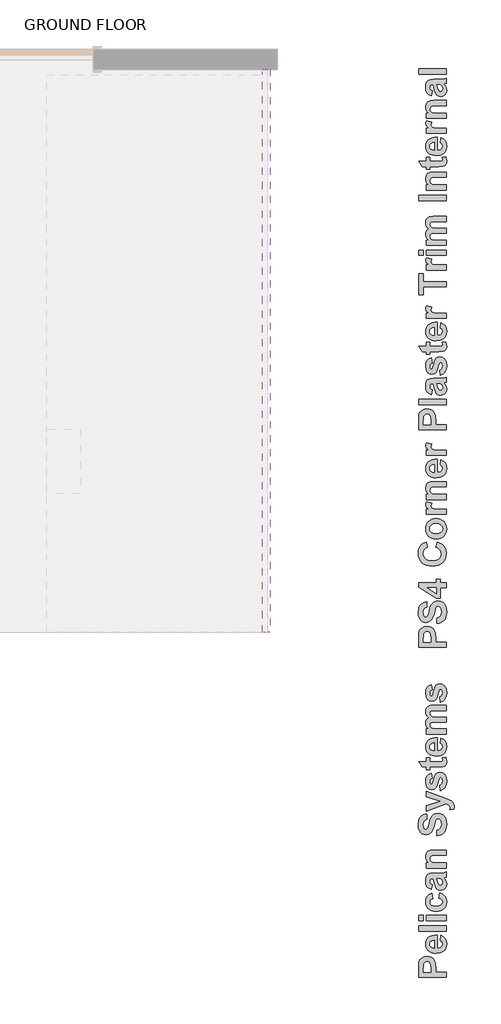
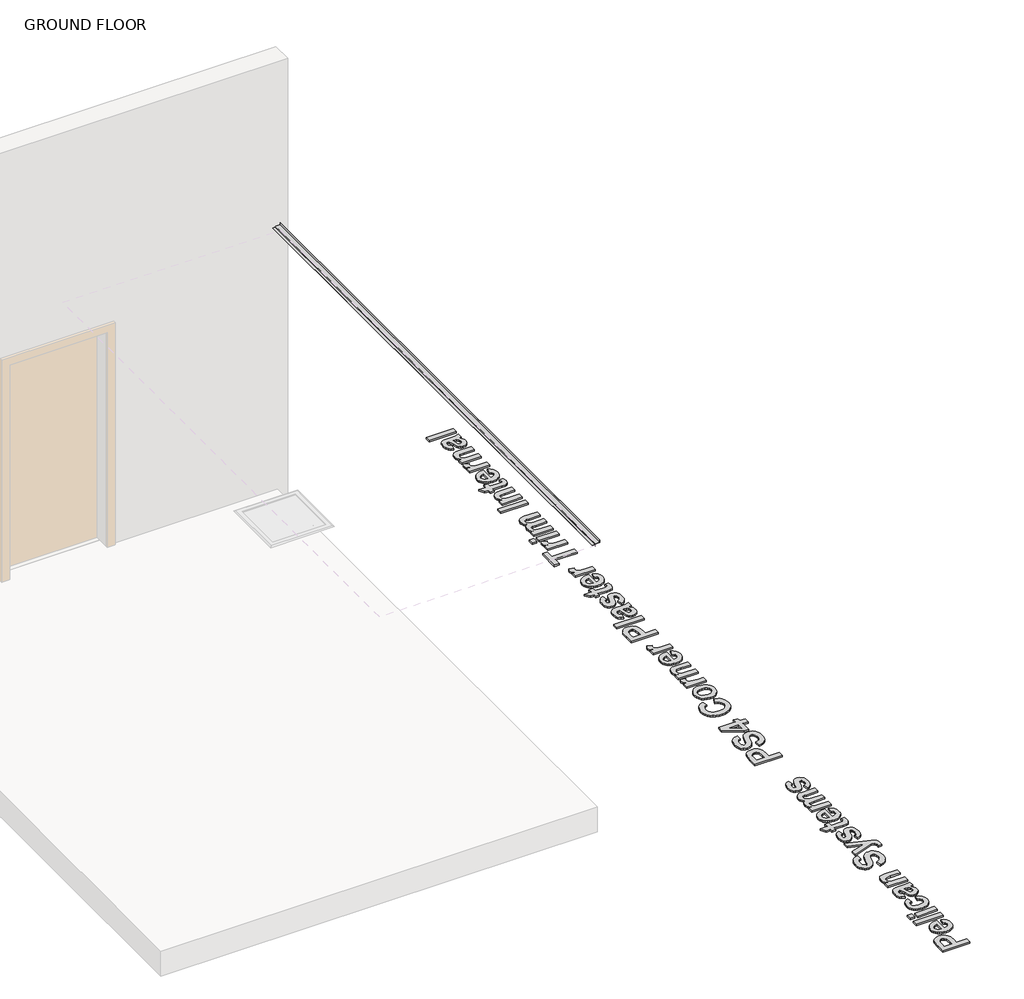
# One storey, part 2 of 2: 2 proxies.
"""IFC4 building model written with IfcOpenShell, lengths in millimetres."""

from ifc_helpers import new_model, si_unit, origin, origin_with_axes, place, context, project, spatial, polyline, outline, extrude, faceted_brep, element, save

model = new_model("IFC4")

# Units and contexts
model_context = context("Model", 3, world=origin())
ifc_project = project(units=[si_unit("LENGTHUNIT", "METRE", prefix="MILLI")], contexts=[model_context])

# Site, building, storey
site = spatial("IfcSite", under=ifc_project)
building = spatial("IfcBuilding", under=site)
storey = spatial("IfcBuildingStorey", under=building, Name="GROUND FLOOR", Elevation=0.0)

# Proxies
placement = place(None, origin())
element("IfcBuildingElementProxy", 1, Name="600mm Arial", ObjectType="600mm Arial", at=placement, inside=storey, context=model_context, shape_type="SweptSolid", body=[
    extrude(outline(polyline([(133623.0960227, 46220.9292098), (133368.0311727, 46220.9292098), (133368.0311727, 46303.1041205), (133371.8267806, 46364.0236271), (133380.8808869, 46384.0691812), (133396.6563822, 46400.556353), (133418.5681102, 46411.5873384), (133446.0309148, 46415.2643336), (133467.5156369, 46413.1055816), (133485.2838263, 46406.6293256), (133499.4857258, 46396.8240053), (133510.2715783, 46384.67806), (133522.3226333, 46357.6343538), (133525.9284608, 46303.5469414), (133525.9284608, 46269.5129907), (133623.0960227, 46269.5129907), (133623.0960227, 46220.9292098)]), holes=[polyline([(133412.5663052, 46269.5129907), (133481.3933282, 46269.5129907), (133481.3933282, 46299.6880734), (133477.5977204, 46343.2426739), (133465.6731856, 46360.4494297), (133456.8879348, 46365.1227719), (133446.7900363, 46366.6805526), (133434.7231663, 46364.4901706), (133424.965291, 46357.9190244), (133417.9750465, 46348.0109063), (133414.2110687, 46335.8096085), (133412.5663052, 46296.1455061), (133412.5663052, 46269.5129907)])]), origin_with_axes(), (0.0, 0.0, 1.0), 15.0),
    extrude(outline(polyline([(133566.4149449, 46561.0156764), (133574.5122417, 46609.5994574), (133597.1830913, 46597.7698128), (133613.7018932, 46580.6263172), (133623.7839766, 46558.3429359), (133627.1446711, 46531.0936342), (133625.1638382, 46509.0909698), (133619.2213396, 46490.1485142), (133609.3171753, 46474.2662674), (133595.4513452, 46461.4442295), (133566.7470606, 46448.0647117), (133531.3688321, 46443.6048725), (133509.5282717, 46445.083578), (133490.1864865, 46449.5196947), (133473.3434765, 46456.9132226), (133458.9992417, 46467.2641616), (133447.5412504, 46479.8766503), (133439.3569709, 46494.0548273), (133434.4464032, 46509.7986925), (133432.8095473, 46527.108246), (133434.4898945, 46546.3432797), (133439.5309363, 46563.4353764), (133447.9326725, 46578.3845363), (133459.6951032, 46591.1907591), (133474.9289336, 46601.3954091), (133493.7448689, 46608.5398502), (133516.1429092, 46612.6240824), (133542.1230544, 46613.6481058), (133542.1230544, 46492.1886534), (133562.587707, 46495.3042149), (133577.9282888, 46503.6387372), (133587.5121987, 46515.9270177), (133590.7068354, 46530.9038538), (133589.2676674, 46541.10455), (133584.9501634, 46549.5655926), (133577.4380228, 46556.2237215), (133566.4149449, 46561.0156764)]), holes=[polyline([(133513.7825155, 46565.0643248), (133494.5751581, 46562.1069137), (133480.6025766, 46554.2468424), (133472.0861814, 46542.8283886), (133469.247383, 46529.1958303), (133472.2364242, 46514.8041504), (133481.2035479, 46503.1326561), (133495.3580023, 46495.4781802), (133513.7825155, 46493.0110351), (133513.7825155, 46565.0643248)])]), origin_with_axes(), (0.0, 0.0, 1.0), 15.0),
    extrude(outline(polyline([(133623.0960227, 46650.0859415), (133368.0311727, 46650.0859415), (133368.0311727, 46698.6697224), (133623.0960227, 46698.6697224), (133623.0960227, 46650.0859415)])), origin_with_axes(), (0.0, 0.0, 1.0), 15.0),
    extrude(outline(polyline([(133412.5663052, 46747.2535034), (133368.0311727, 46747.2535034), (133368.0311727, 46795.8372843), (133412.5663052, 46795.8372843), (133412.5663052, 46747.2535034)])), origin_with_axes(), (0.0, 0.0, 1.0), 15.0),
    extrude(outline(polyline([(133623.0960227, 46747.2535034), (133436.8581957, 46747.2535034), (133436.8581957, 46795.8372843), (133623.0960227, 46795.8372843), (133623.0960227, 46747.2535034)])), origin_with_axes(), (0.0, 0.0, 1.0), 15.0),
    extrude(outline(polyline([(133489.4906251, 46998.269705), (133497.5879219, 46949.685924), (133485.2284737, 46945.9614838), (133476.3641478, 46939.3428925), (133471.0265742, 46930.0673758), (133469.247383, 46918.372159), (133472.5843549, 46902.9683169), (133482.5952707, 46891.0437822), (133500.4188128, 46883.4051213), (133527.1936634, 46880.858901), (133556.8784801, 46883.507919), (133576.3467855, 46891.454973), (133587.1168229, 46903.8618663), (133590.7068354, 46919.8904021), (133588.6587886, 46932.0284398), (133582.5146484, 46941.7467775), (133571.3571427, 46948.9979701), (133554.2689997, 46953.7345724), (133562.3662965, 47002.3183534), (133590.5091475, 46991.6827438), (133610.7919271, 46974.3257452), (133623.0564851, 46950.0892074), (133627.1446711, 46918.8149799), (133625.5354915, 46900.0484665), (133620.7079527, 46883.2865086), (133612.6620548, 46868.529106), (133601.3977976, 46855.7762589), (133587.2907883, 46845.4945107), (133570.7166338, 46838.1504048), (133551.6753343, 46833.7439412), (133530.1668896, 46832.2751201), (133508.4152888, 46833.7340568), (133489.213862, 46838.1108672), (133472.5626093, 46845.4055511), (133458.4615306, 46855.6181086), (133447.2387879, 46868.3215337), (133439.2225431, 46883.0888206), (133434.4127963, 46899.9199694), (133432.8095473, 46918.8149799), (133436.3125771, 46948.0569756), (133446.8216664, 46970.6250275), (133464.4949656, 46987.1517369), (133489.4906251, 46998.269705)])), origin_with_axes(), (0.0, 0.0, 1.0), 15.0),
    extrude(outline(polyline([(133493.5392735, 47079.2426732), (133485.4419767, 47034.7075407), (133462.0989882, 47044.3626182), (133445.7146141, 47059.1575815), (133436.035814, 47080.7213788), (133432.8095473, 47110.6829585), (133434.7627039, 47137.7741098), (133440.6221735, 47156.9261146), (133449.4785919, 47169.8628115), (133460.4225947, 47178.3080391), (133477.4316625, 47182.9576587), (133504.4832762, 47184.5075319), (133561.9234756, 47184.5075319), (133598.1082708, 47187.0695673), (133623.0960227, 47196.6534772), (133623.0960227, 47148.0696962), (133607.6605506, 47143.5149668), (133601.5243179, 47141.8069432), (133620.7237678, 47115.8070292), (133625.5394453, 47101.4944245), (133627.1446711, 47086.2645478), (133623.2462655, 47061.4902988), (133611.5510487, 47042.583427), (133593.9093795, 47030.6035397), (133572.1716169, 47026.6102439), (133557.2738559, 47028.3894351), (133544.0841185, 47033.7270086), (133533.1875609, 47042.2750339), (133525.1693392, 47053.6855801), (133513.7192554, 47090.692757), (133501.6365703, 47135.923751), (133496.5124997, 47135.923751), (133483.8921034, 47134.4134154), (133475.510136, 47129.8824084), (133470.8130713, 47121.1762329), (133469.247383, 47107.1403912), (133470.5916608, 47097.0662153), (133474.6244942, 47089.4908145), (133493.5392735, 47079.2426732)]), holes=[polyline([(133538.074406, 47135.923751), (133544.81161, 47108.5321141), (133552.497716, 47083.9871831), (133559.4088854, 47077.3923144), (133567.9964482, 47075.1940248), (133576.6077336, 47076.957401), (133583.9696314, 47082.2475295), (133589.0225344, 47090.2578436), (133590.7068354, 47100.1817767), (133588.7457713, 47112.0904965), (133582.8625791, 47123.398245), (133568.3127489, 47134.1524673), (133546.8675643, 47135.923751), (133538.074406, 47135.923751)])]), origin_with_axes(), (0.0, 0.0, 1.0), 15.0),
    extrude(outline(polyline([(133623.0960227, 47399.0858978), (133623.0960227, 47350.5021169), (133527.3834438, 47350.5021169), (133488.035642, 47347.4656306), (133474.1816733, 47337.5337899), (133469.247383, 47321.0228956), (133471.0107592, 47309.2644187), (133476.3008877, 47298.7869594), (133484.5088897, 47290.4998822), (133495.0258866, 47285.3125514), (133538.1376662, 47281.6750938), (133623.0960227, 47281.6750938), (133623.0960227, 47233.0913129), (133436.8581957, 47233.0913129), (133436.8581957, 47281.6750938), (133463.6804914, 47281.6750938), (133450.1744534, 47293.9673281), (133440.5272833, 47307.754083), (133434.7389813, 47323.0353585), (133432.8095473, 47339.8111546), (133438.6927395, 47368.0251733), (133453.6853907, 47387.3827735), (133474.3398236, 47396.5238625), (133507.4565024, 47399.0858978), (133623.0960227, 47399.0858978)])), origin_with_axes(), (0.0, 0.0, 1.0), 15.0),
    extrude(outline(polyline([(133538.074406, 47532.6912954), (133534.0257576, 47581.2750764), (133555.7556128, 47588.3602111), (133570.8431541, 47600.2531158), (133579.6679424, 47617.0328657), (133582.6095386, 47638.7785359), (133580.0079657, 47661.3465878), (133572.2032469, 47677.5569964), (133560.919221, 47687.3306867), (133547.8797264, 47690.5885835), (133532.6656648, 47685.1798423), (133521.7532921, 47666.2334329), (133510.9358096, 47624.1021854), (133499.7545814, 47588.1388006), (133486.074578, 47564.7641821), (133462.7790346, 47546.7824897), (133434.8971316, 47540.7885922), (133416.1088726, 47543.540408), (133398.5858162, 47551.7958551), (133383.7038703, 47565.2386331), (133372.8389427, 47583.5524411), (133366.1966289, 47606.4367937), (133363.9825243, 47633.5912051), (133369.5019708, 47675.5563948), (133376.4012788, 47692.0969423), (133386.0603102, 47705.6761249), (133398.0204288, 47716.3374339), (133411.8229987, 47724.1243607), (133427.4680199, 47729.0369053), (133444.9554925, 47731.0750676), (133444.9554925, 47682.4912867), (133428.2627253, 47677.122083), (133417.0261445, 47667.8465663), (133410.6447787, 47653.8107246), (133408.5176568, 47634.1605463), (133410.7792065, 47613.4744833), (133417.5638556, 47597.8492308), (133424.3643197, 47591.4915876), (133433.125848, 47589.3723732), (133441.3971101, 47591.3018072), (133448.3715396, 47597.0901092), (133456.5400041, 47613.8935817), (133464.9773241, 47644.6933581), (133473.7546674, 47677.564904), (133482.9432015, 47700.5836843), (133494.0690771, 47716.7150178), (133508.6584449, 47728.9242232), (133526.8931778, 47736.6103291), (133548.9551486, 47739.1723645), (133570.0207724, 47736.1437857), (133589.6946733, 47727.0580493), (133606.2371977, 47712.4291439), (133617.9086919, 47692.771058), (133624.8356763, 47667.8702888), (133627.1446711, 47637.5133332), (133625.723295, 47614.8108536), (133621.4591668, 47594.9076347), (133614.3522864, 47577.8036767), (133604.4026538, 47563.4989794), (133591.7288819, 47551.8946991), (133576.4495833, 47542.8919916), (133558.564758, 47536.4908571), (133538.074406, 47532.6912954)])), origin_with_axes(), (0.0, 0.0, 1.0), 15.0),
    extrude(outline(polyline([(133436.8581957, 47759.4156065), (133436.8581957, 47807.9993875), (133568.6923096, 47850.5101958), (133436.8581957, 47893.0210041), (133436.8581957, 47941.6047851), (133615.3150265, 47878.5976942), (133648.4633354, 47866.8945699), (133672.0593644, 47855.3495959), (133685.2807319, 47842.7291996), (133693.1566183, 47825.1745132), (133695.9716941, 47801.6733743), (133693.1882483, 47775.6102002), (133657.1932335, 47771.5615518), (133659.5338584, 47790.8558919), (133656.9639156, 47804.622878), (133649.254087, 47814.2937706), (133623.0960227, 47825.9652648), (133436.8581957, 47759.4156065)])), origin_with_axes(), (0.0, 0.0, 1.0), 15.0),
    extrude(outline(polyline([(133570.4635933, 47949.7020819), (133562.3662965, 47998.2858629), (133574.6071319, 48002.91176), (133583.4951804, 48010.7164787), (133588.9039216, 48021.9688746), (133590.7068354, 48036.9378032), (133588.9829968, 48053.1798419), (133583.8114811, 48064.8355211), (133578.1813294, 48069.580031), (133570.9064142, 48071.1615343), (133561.7969553, 48067.8087473), (133555.407682, 48051.9304543), (133542.9770662, 48005.0072518), (133531.6218726, 47979.118043), (133513.6401803, 47963.1290448), (133489.8069257, 47957.7993787), (133467.6184346, 47962.3699232), (133449.2571815, 47976.0815567), (133436.9214558, 47999.4087302), (133432.8095473, 48032.8258946), (133436.1307042, 48064.6931859), (133446.0941749, 48087.1663475), (133462.5734391, 48102.1748137), (133485.4419767, 48111.6480184), (133493.5392735, 48063.0642375), (133483.1487969, 48059.49004), (133475.510136, 48053.701738), (133470.8130713, 48045.3514007), (133469.247383, 48034.0910973), (133470.5758458, 48020.2529435), (133474.5612341, 48011.0011493), (133484.4298146, 48006.3831597), (133493.2229728, 48011.0011493), (133506.8239011, 48053.9864086), (133516.6450365, 48085.213191), (133528.5221262, 48105.3220053), (133544.1948237, 48116.1394877), (133565.023222, 48119.7453152), (133588.7220488, 48114.5184469), (133608.830863, 48098.8378418), (133616.8431541, 48087.1287868), (133622.5662191, 48072.9090954), (133627.1446711, 48036.9378032), (133623.3332482, 48003.6234365), (133611.8989794, 47978.0742509), (133593.9172871, 47960.1479111), (133570.4635933, 47949.7020819)])), origin_with_axes(), (0.0, 0.0, 1.0), 15.0),
    extrude(outline(polyline([(133436.8581957, 48253.3507129), (133473.2960314, 48253.3507129), (133473.2960314, 48216.9128771), (133553.1935774, 48216.9128771), (133581.4392261, 48218.0199294), (133588.0815399, 48223.0491099), (133590.7068354, 48232.6013897), (133586.0255857, 48255.3750371), (133620.5656174, 48257.3993613), (133625.4999077, 48238.6585473), (133627.1446711, 48217.6087386), (133622.5899416, 48193.0638076), (133610.8235572, 48177.0273643), (133591.2761766, 48169.9105995), (133555.9137631, 48168.3290962), (133473.2960314, 48168.3290962), (133473.2960314, 48144.0372057), (133436.8581957, 48144.0372057), (133436.8581957, 48168.3290962), (133400.42036, 48168.3290962), (133372.0798211, 48216.9128771), (133436.8581957, 48216.9128771), (133436.8581957, 48253.3507129)])), origin_with_axes(), (0.0, 0.0, 1.0), 15.0),
    extrude(outline(polyline([(133566.4149449, 48386.9561105), (133574.5122417, 48435.5398914), (133597.1830913, 48423.7102468), (133613.7018932, 48406.5667512), (133623.7839766, 48384.2833699), (133627.1446711, 48357.0340683), (133625.1638382, 48335.0314038), (133619.2213396, 48316.0889482), (133609.3171753, 48300.2067015), (133595.4513452, 48287.3846636), (133566.7470606, 48274.0051458), (133531.3688321, 48269.5453065), (133509.5282717, 48271.0240121), (133490.1864865, 48275.4601288), (133473.3434765, 48282.8536567), (133458.9992417, 48293.2045957), (133447.5412504, 48305.8170844), (133439.3569709, 48319.9952613), (133434.4464032, 48335.7391265), (133432.8095473, 48353.04868), (133434.4898945, 48372.2837137), (133439.5309363, 48389.3758105), (133447.9326725, 48404.3249703), (133459.6951032, 48417.1311932), (133474.9289336, 48427.3358431), (133493.7448689, 48434.4802842), (133516.1429092, 48438.5645165), (133542.1230544, 48439.5885398), (133542.1230544, 48318.1290875), (133562.587707, 48321.2446489), (133577.9282888, 48329.5791712), (133587.5121987, 48341.8674518), (133590.7068354, 48356.8442879), (133589.2676674, 48367.0449841), (133584.9501634, 48375.5060267), (133577.4380228, 48382.1641555), (133566.4149449, 48386.9561105)]), holes=[polyline([(133513.7825155, 48391.0047589), (133494.5751581, 48388.0473477), (133480.6025766, 48380.1872764), (133472.0861814, 48368.7688227), (133469.247383, 48355.1362644), (133472.2364242, 48340.7445844), (133481.2035479, 48329.0730902), (133495.3580023, 48321.4186143), (133513.7825155, 48318.9514692), (133513.7825155, 48391.0047589)])]), origin_with_axes(), (0.0, 0.0, 1.0), 15.0),
    extrude(outline(polyline([(133436.8581957, 48471.9777271), (133436.8581957, 48520.5615081), (133461.7826875, 48520.5615081), (133449.1069387, 48532.5216267), (133440.0528323, 48545.565075), (133434.6203686, 48559.6918531), (133432.8095473, 48574.901961), (133434.5887385, 48590.550936), (133439.9263121, 48603.9699914), (133448.8697132, 48615.1749422), (133461.4663868, 48624.1816034), (133448.8697132, 48636.6201267), (133439.9263121, 48650.0233671), (133434.5887385, 48664.3755094), (133432.8095473, 48679.6607387), (133434.8892241, 48698.116882), (133441.1282546, 48713.504909), (133451.4001184, 48725.6192242), (133465.5782954, 48734.2542321), (133481.1561028, 48737.9549498), (133504.1037154, 48739.1885224), (133623.0960227, 48739.1885224), (133623.0960227, 48690.6047414), (133515.8700999, 48690.6047414), (133492.9224872, 48689.3711688), (133479.8750851, 48685.6704512), (133471.9043085, 48677.2884837), (133469.247383, 48665.3006888), (133470.8367938, 48655.5981662), (133475.6050262, 48646.4807997), (133483.441375, 48638.889584), (133494.2351349, 48633.7655133), (133533.0135955, 48629.8750152), (133623.0960227, 48629.8750152), (133623.0960227, 48581.2912343), (133520.2983091, 48581.2912343), (133484.9675257, 48578.760829), (133473.1378811, 48570.9482028), (133469.247383, 48556.5565229), (133470.7893487, 48546.1660463), (133475.4152458, 48536.882622), (133482.9590165, 48529.3862964), (133493.2546029, 48524.357116), (133531.9381733, 48520.5615081), (133623.0960227, 48520.5615081), (133623.0960227, 48471.9777271), (133436.8581957, 48471.9777271)])), origin_with_axes(), (0.0, 0.0, 1.0), 15.0),
    extrude(outline(polyline([(133570.4635933, 48767.5290612), (133562.3662965, 48816.1128422), (133574.6071319, 48820.7387393), (133583.4951804, 48828.543458), (133588.9039216, 48839.7958539), (133590.7068354, 48854.7647825), (133588.9829968, 48871.0068213), (133583.8114811, 48882.6625005), (133578.1813294, 48887.4070103), (133570.9064142, 48888.9885136), (133561.7969553, 48885.6357267), (133555.407682, 48869.7574337), (133542.9770662, 48822.8342312), (133531.6218726, 48796.9450224), (133513.6401803, 48780.9560241), (133489.8069257, 48775.6263581), (133467.6184346, 48780.1969026), (133449.2571815, 48793.9085361), (133436.9214558, 48817.2357095), (133432.8095473, 48850.652874), (133436.1307042, 48882.5201652), (133446.0941749, 48904.9933269), (133462.5734391, 48920.0017931), (133485.4419767, 48929.4749977), (133493.5392735, 48880.8912168), (133483.1487969, 48877.3170194), (133475.510136, 48871.5287173), (133470.8130713, 48863.17838), (133469.247383, 48851.9180766), (133470.5758458, 48838.0799228), (133474.5612341, 48828.8281286), (133484.4298146, 48824.210139), (133493.2229728, 48828.8281286), (133506.8239011, 48871.8133879), (133516.6450365, 48903.0401703), (133528.5221262, 48923.1489846), (133544.1948237, 48933.9664671), (133565.023222, 48937.5722946), (133588.7220488, 48932.3454262), (133608.830863, 48916.6648211), (133616.8431541, 48904.9557662), (133622.5662191, 48890.7360748), (133627.1446711, 48854.7647825), (133623.3332482, 48821.4504158), (133611.8989794, 48795.9012302), (133593.9172871, 48777.9748905), (133570.4635933, 48767.5290612)])), origin_with_axes(), (0.0, 0.0, 1.0), 15.0),
    extrude(outline(polyline([(133623.0960227, 49273.6101128), (133368.0311727, 49273.6101128), (133368.0311727, 49355.7850236), (133371.8267806, 49416.7045301), (133380.8808869, 49436.7500843), (133396.6563822, 49453.2372561), (133418.5681102, 49464.2682415), (133446.0309148, 49467.9452366), (133467.5156369, 49465.7864846), (133485.2838263, 49459.3102287), (133499.4857258, 49449.5049083), (133510.2715783, 49437.3589631), (133522.3226333, 49410.3152569), (133525.9284608, 49356.2278445), (133525.9284608, 49322.1938938), (133623.0960227, 49322.1938938), (133623.0960227, 49273.6101128)]), holes=[polyline([(133412.5663052, 49322.1938938), (133481.3933282, 49322.1938938), (133481.3933282, 49352.3689765), (133477.5977204, 49395.923577), (133465.6731856, 49413.1303327), (133456.8879348, 49417.8036749), (133446.7900363, 49419.3614557), (133434.7231663, 49417.1710736), (133424.965291, 49410.5999275), (133417.9750465, 49400.6918094), (133414.2110687, 49388.4905115), (133412.5663052, 49348.8264091), (133412.5663052, 49322.1938938)])]), origin_with_axes(), (0.0, 0.0, 1.0), 15.0),
    extrude(outline(polyline([(133538.074406, 49496.2857755), (133534.0257576, 49544.8695565), (133555.7556128, 49551.9546912), (133570.8431541, 49563.8475959), (133579.6679424, 49580.6273458), (133582.6095386, 49602.3730159), (133580.0079657, 49624.9410678), (133572.2032469, 49641.1514765), (133560.919221, 49650.9251668), (133547.8797264, 49654.1830636), (133532.6656648, 49648.7743224), (133521.7532921, 49629.827913), (133510.9358096, 49587.6966654), (133499.7545814, 49551.7332807), (133486.074578, 49528.3586621), (133462.7790346, 49510.3769698), (133434.8971316, 49504.3830723), (133416.1088726, 49507.134888), (133398.5858162, 49515.3903352), (133383.7038703, 49528.8331131), (133372.8389427, 49547.1469212), (133366.1966289, 49570.0312737), (133363.9825243, 49597.1856852), (133369.5019708, 49639.1508749), (133376.4012788, 49655.6914223), (133386.0603102, 49669.2706049), (133398.0204288, 49679.931914), (133411.8229987, 49687.7188408), (133427.4680199, 49692.6313854), (133444.9554925, 49694.6695477), (133444.9554925, 49646.0857668), (133428.2627253, 49640.7165631), (133417.0261445, 49631.4410463), (133410.6447787, 49617.4052047), (133408.5176568, 49597.7550263), (133410.7792065, 49577.0689634), (133417.5638556, 49561.4437109), (133424.3643197, 49555.0860677), (133433.125848, 49552.9668533), (133441.3971101, 49554.8962873), (133448.3715396, 49560.6845893), (133456.5400041, 49577.4880617), (133464.9773241, 49608.2878382), (133473.7546674, 49641.159384), (133482.9432015, 49664.1781644), (133494.0690771, 49680.3094979), (133508.6584449, 49692.5187032), (133526.8931778, 49700.2048092), (133548.9551486, 49702.7668445), (133570.0207724, 49699.7382657), (133589.6946733, 49690.6525294), (133606.2371977, 49676.023624), (133617.9086919, 49656.3655381), (133624.8356763, 49631.4647689), (133627.1446711, 49601.1078133), (133625.723295, 49578.4053336), (133621.4591668, 49558.5021148), (133614.3522864, 49541.3981567), (133604.4026538, 49527.0934595), (133591.7288819, 49515.4891792), (133576.4495833, 49506.4864717), (133558.564758, 49500.0853371), (133538.074406, 49496.2857755)])), origin_with_axes(), (0.0, 0.0, 1.0), 15.0),
    extrude(outline(polyline([(133623.0960227, 49824.2262969), (133570.4635933, 49824.2262969), (133570.4635933, 49727.058735), (133530.1668896, 49727.058735), (133372.0798211, 49830.6788303), (133372.0798211, 49872.8100779), (133529.9771092, 49872.8100779), (133529.9771092, 49905.1992652), (133570.4635933, 49905.1992652), (133570.4635933, 49872.8100779), (133623.0960227, 49872.8100779), (133623.0960227, 49824.2262969)]), holes=[polyline([(133529.9771092, 49824.2262969), (133447.106337, 49824.2262969), (133529.9771092, 49769.9491041), (133529.9771092, 49824.2262969)])]), origin_with_axes(), (0.0, 0.0, 1.0), 15.0),
    extrude(outline(polyline([(133525.9284608, 50200.7505993), (133542.1230544, 50249.3343802), (133577.9045663, 50234.0096134), (133591.8395871, 50223.4886628), (133603.1374512, 50211.0620007), (133618.1063798, 50180.6971376), (133623.0960227, 50143.1206195), (133620.964947, 50118.7931452), (133614.57172, 50096.7351282), (133603.9163416, 50076.9465683), (133588.9988118, 50059.4274656), (133570.3845182, 50045.0911383), (133548.638848, 50034.8509046), (133523.7618013, 50028.7067643), (133495.7533781, 50026.6587175), (133466.2188042, 50028.7245562), (133440.1793526, 50034.9220722), (133417.6350233, 50045.2512655), (133398.5858162, 50059.7121362), (133383.446876, 50077.5416089), (133372.6333473, 50097.9766082), (133366.14523, 50121.0171342), (133363.9825243, 50146.6631869), (133365.7656692, 50169.0889035), (133371.1151041, 50189.3005155), (133380.0308289, 50207.2980229), (133392.5128436, 50223.0814257), (133413.0249412, 50238.4061925), (133440.9068441, 50249.3343802), (133449.0041409, 50200.7505993), (133432.2006685, 50193.3096263), (133419.3667694, 50180.6022474), (133411.229935, 50163.6089946), (133408.5176568, 50143.3103999), (133413.4440396, 50115.8634104), (133428.2231878, 50094.1256477), (133439.600127, 50085.8642699), (133454.0254139, 50079.9632858), (133492.0210303, 50075.2424985), (133532.0963236, 50079.8209505), (133547.0810672, 50085.5440155), (133558.6972089, 50093.5563065), (133573.5949698, 50114.6298378), (133578.5608901, 50141.2228156), (133575.3899761, 50161.2999998), (133565.8772338, 50178.3881428), (133549.5482124, 50191.7755681), (133525.9284608, 50200.7505993)])), origin_with_axes(), (0.0, 0.0, 1.0), 15.0),
    extrude(outline(polyline([(133527.3201837, 50277.6749191), (133503.2259811, 50280.6718678), (133479.9067152, 50289.662714), (133459.6871956, 50304.1413766), (133444.8922324, 50323.6017745), (133435.8302186, 50346.8340578), (133432.8095473, 50372.6283764), (133434.5215246, 50392.6205548), (133439.6574565, 50410.7188831), (133448.2173431, 50426.9233611), (133460.2011842, 50441.233989), (133474.8024133, 50452.9272289), (133491.2144637, 50461.2795431), (133509.4373353, 50466.2909317), (133529.4710281, 50467.9613945), (133549.6648482, 50466.2731397), (133568.0518008, 50461.2083755), (133584.6318859, 50452.7671017), (133599.4051035, 50440.9493184), (133611.5411643, 50426.5734535), (133620.2097792, 50410.457935), (133625.4109481, 50392.6027629), (133627.1446711, 50373.0079372), (133624.2584276, 50348.2336882), (133615.5996971, 50324.6455667), (133601.35826, 50304.4023247), (133581.7238967, 50289.662714), (133556.9575553, 50280.6718678), (133527.3201837, 50277.6749191)]), holes=[polyline([(133529.9771092, 50326.2587001), (133555.9533007, 50329.6193946), (133575.0499529, 50339.701478), (133586.7926148, 50354.7178517), (133590.7068354, 50372.8814169), (133586.7926148, 50391.0291672), (133575.0499529, 50405.9980958), (133555.8584105, 50416.0327341), (133529.5975484, 50419.3776136), (133503.9060275, 50416.0327341), (133484.9042655, 50405.9980958), (133473.1616036, 50391.0291672), (133469.247383, 50372.8814169), (133473.1616036, 50354.7178517), (133484.9042655, 50339.701478), (133504.0009177, 50329.6193946), (133529.9771092, 50326.2587001)])]), origin_with_axes(), (0.0, 0.0, 1.0), 15.0),
    extrude(outline(polyline([(133623.0960227, 50552.9830112), (133623.0960227, 50504.3992302), (133436.8581957, 50504.3992302), (133436.8581957, 50552.9830112), (133462.7948496, 50552.9830112), (133438.5978493, 50572.4038715), (133432.8095473, 50592.0145123), (133435.3715826, 50607.1811288), (133443.0576886, 50621.8100342), (133489.3008447, 50607.6397647), (133483.3702074, 50595.9366404), (133481.3933282, 50585.1191579), (133486.9285897, 50568.0072924), (133494.6858634, 50561.7603544), (133506.8871612, 50557.0000295), (133567.3638469, 50552.9830112), (133623.0960227, 50552.9830112)])), origin_with_axes(), (0.0, 0.0, 1.0), 15.0),
    extrude(outline(polyline([(133623.0960227, 50808.0478612), (133623.0960227, 50759.4640802), (133527.3834438, 50759.4640802), (133488.035642, 50756.4275939), (133474.1816733, 50746.4957533), (133469.247383, 50729.984859), (133471.0107592, 50718.226382), (133476.3008877, 50707.7489228), (133484.5088897, 50699.4618455), (133495.0258866, 50694.2745148), (133538.1376662, 50690.6370572), (133623.0960227, 50690.6370572), (133623.0960227, 50642.0532762), (133436.8581957, 50642.0532762), (133436.8581957, 50690.6370572), (133463.6804914, 50690.6370572), (133450.1744534, 50702.9292915), (133440.5272833, 50716.7160464), (133434.7389813, 50731.9973219), (133432.8095473, 50748.773118), (133438.6927395, 50776.9871366), (133453.6853907, 50796.3447368), (133474.3398236, 50805.4858258), (133507.4565024, 50808.0478612), (133623.0960227, 50808.0478612)])), origin_with_axes(), (0.0, 0.0, 1.0), 15.0),
    extrude(outline(polyline([(133566.4149449, 50961.8965008), (133574.5122417, 51010.4802818), (133597.1830913, 50998.6506372), (133613.7018932, 50981.5071416), (133623.7839766, 50959.2237603), (133627.1446711, 50931.9744587), (133625.1638382, 50909.9717942), (133619.2213396, 50891.0293386), (133609.3171753, 50875.1470918), (133595.4513452, 50862.3250539), (133566.7470606, 50848.9455361), (133531.3688321, 50844.4856969), (133509.5282717, 50845.9644024), (133490.1864865, 50850.4005192), (133473.3434765, 50857.794047), (133458.9992417, 50868.144986), (133447.5412504, 50880.7574747), (133439.3569709, 50894.9356517), (133434.4464032, 50910.6795169), (133432.8095473, 50927.9890704), (133434.4898945, 50947.2241041), (133439.5309363, 50964.3162009), (133447.9326725, 50979.2653607), (133459.6951032, 50992.0715835), (133474.9289336, 51002.2762335), (133493.7448689, 51009.4206746), (133516.1429092, 51013.5049068), (133542.1230544, 51014.5289302), (133542.1230544, 50893.0694778), (133562.587707, 50896.1850393), (133577.9282888, 50904.5195616), (133587.5121987, 50916.8078421), (133590.7068354, 50931.7846783), (133589.2676674, 50941.9853745), (133584.9501634, 50950.446417), (133577.4380228, 50957.1045459), (133566.4149449, 50961.8965008)]), holes=[polyline([(133513.7825155, 50965.9451492), (133494.5751581, 50962.9877381), (133480.6025766, 50955.1276668), (133472.0861814, 50943.709213), (133469.247383, 50930.0766547), (133472.2364242, 50915.6849748), (133481.2035479, 50904.0134806), (133495.3580023, 50896.3590047), (133513.7825155, 50893.8918595), (133513.7825155, 50965.9451492)])]), origin_with_axes(), (0.0, 0.0, 1.0), 15.0),
    extrude(outline(polyline([(133623.0960227, 51099.5505469), (133623.0960227, 51050.9667659), (133436.8581957, 51050.9667659), (133436.8581957, 51099.5505469), (133462.7948496, 51099.5505469), (133438.5978493, 51118.9714072), (133432.8095473, 51138.582048), (133435.3715826, 51153.7486645), (133443.0576886, 51168.3775699), (133489.3008447, 51154.2073004), (133483.3702074, 51142.5041761), (133481.3933282, 51131.6866936), (133486.9285897, 51114.5748281), (133494.6858634, 51108.3278901), (133506.8871612, 51103.5675652), (133567.3638469, 51099.5505469), (133623.0960227, 51099.5505469)])), origin_with_axes(), (0.0, 0.0, 1.0), 15.0),
    extrude(outline(polyline([(133623.0960227, 51285.7883738), (133368.0311727, 51285.7883738), (133368.0311727, 51367.9632846), (133371.8267806, 51428.8827912), (133380.8808869, 51448.9283453), (133396.6563822, 51465.4155171), (133418.5681102, 51476.4465025), (133446.0309148, 51480.1234976), (133467.5156369, 51477.9647457), (133485.2838263, 51471.4884897), (133499.4857258, 51461.6831693), (133510.2715783, 51449.5372241), (133522.3226333, 51422.4935179), (133525.9284608, 51368.4061055), (133525.9284608, 51334.3721548), (133623.0960227, 51334.3721548), (133623.0960227, 51285.7883738)]), holes=[polyline([(133412.5663052, 51334.3721548), (133481.3933282, 51334.3721548), (133481.3933282, 51364.5472375), (133477.5977204, 51408.101838), (133465.6731856, 51425.3085937), (133456.8879348, 51429.981936), (133446.7900363, 51431.5397167), (133434.7231663, 51429.3493346), (133424.965291, 51422.7781885), (133417.9750465, 51412.8700704), (133414.2110687, 51400.6687725), (133412.5663052, 51361.0046701), (133412.5663052, 51334.3721548)])]), origin_with_axes(), (0.0, 0.0, 1.0), 15.0),
    extrude(outline(polyline([(133623.0960227, 51520.6099818), (133368.0311727, 51520.6099818), (133368.0311727, 51569.1937627), (133623.0960227, 51569.1937627), (133623.0960227, 51520.6099818)])), origin_with_axes(), (0.0, 0.0, 1.0), 15.0),
    extrude(outline(polyline([(133493.5392735, 51658.2640278), (133485.4419767, 51613.7288953), (133462.0989882, 51623.3839728), (133445.7146141, 51638.1789361), (133436.035814, 51659.7427334), (133432.8095473, 51689.7043131), (133434.7627039, 51716.7954644), (133440.6221735, 51735.9474692), (133449.4785919, 51748.8841661), (133460.4225947, 51757.3293936), (133477.4316625, 51761.9790133), (133504.4832762, 51763.5288865), (133561.9234756, 51763.5288865), (133598.1082708, 51766.0909218), (133623.0960227, 51775.6748318), (133623.0960227, 51727.0910508), (133607.6605506, 51722.5363213), (133601.5243179, 51720.8282978), (133620.7237678, 51694.8283838), (133625.5394453, 51680.515779), (133627.1446711, 51665.2859024), (133623.2462655, 51640.5116534), (133611.5510487, 51621.6047816), (133593.9093795, 51609.6248942), (133572.1716169, 51605.6315984), (133557.2738559, 51607.4107896), (133544.0841185, 51612.7483632), (133533.1875609, 51621.2963885), (133525.1693392, 51632.7069347), (133513.7192554, 51669.7141116), (133501.6365703, 51714.9451056), (133496.5124997, 51714.9451056), (133483.8921034, 51713.4347699), (133475.510136, 51708.903763), (133470.8130713, 51700.1975874), (133469.247383, 51686.1617458), (133470.5916608, 51676.0875698), (133474.6244942, 51668.5121691), (133493.5392735, 51658.2640278)]), holes=[polyline([(133538.074406, 51714.9451056), (133544.81161, 51687.5534686), (133552.497716, 51663.0085376), (133559.4088854, 51656.4136689), (133567.9964482, 51654.2153794), (133576.6077336, 51655.9787555), (133583.9696314, 51661.268884), (133589.0225344, 51669.2791982), (133590.7068354, 51679.2031313), (133588.7457713, 51691.111851), (133582.8625791, 51702.4195995), (133568.3127489, 51713.1738219), (133546.8675643, 51714.9451056), (133538.074406, 51714.9451056)])]), origin_with_axes(), (0.0, 0.0, 1.0), 15.0),
    extrude(outline(polyline([(133570.4635933, 51791.8694254), (133562.3662965, 51840.4532064), (133574.6071319, 51845.0791035), (133583.4951804, 51852.8838222), (133588.9039216, 51864.1362181), (133590.7068354, 51879.1051467), (133588.9829968, 51895.3471854), (133583.8114811, 51907.0028646), (133578.1813294, 51911.7473745), (133570.9064142, 51913.3288778), (133561.7969553, 51909.9760908), (133555.407682, 51894.0977978), (133542.9770662, 51847.1745953), (133531.6218726, 51821.2853865), (133513.6401803, 51805.2963883), (133489.8069257, 51799.9667222), (133467.6184346, 51804.5372667), (133449.2571815, 51818.2489002), (133436.9214558, 51841.5760737), (133432.8095473, 51874.9932381), (133436.1307042, 51906.8605293), (133446.0941749, 51929.333691), (133462.5734391, 51944.3421572), (133485.4419767, 51953.8153619), (133493.5392735, 51905.231581), (133483.1487969, 51901.6573835), (133475.510136, 51895.8690815), (133470.8130713, 51887.5187441), (133469.247383, 51876.2584408), (133470.5758458, 51862.420287), (133474.5612341, 51853.1684928), (133484.4298146, 51848.5505032), (133493.2229728, 51853.1684928), (133506.8239011, 51896.1537521), (133516.6450365, 51927.3805345), (133528.5221262, 51947.4893488), (133544.1948237, 51958.3068312), (133565.023222, 51961.9126587), (133588.7220488, 51956.6857904), (133608.830863, 51941.0051853), (133616.8431541, 51929.2961303), (133622.5662191, 51915.0764389), (133627.1446711, 51879.1051467), (133623.3332482, 51845.7907799), (133611.8989794, 51820.2415944), (133593.9172871, 51802.3152546), (133570.4635933, 51791.8694254)])), origin_with_axes(), (0.0, 0.0, 1.0), 15.0),
    extrude(outline(polyline([(133436.8581957, 52095.5180563), (133473.2960314, 52095.5180563), (133473.2960314, 52059.0802206), (133553.1935774, 52059.0802206), (133581.4392261, 52060.1872729), (133588.0815399, 52065.2164534), (133590.7068354, 52074.7687332), (133586.0255857, 52097.5423805), (133620.5656174, 52099.5667048), (133625.4999077, 52080.8258908), (133627.1446711, 52059.7760821), (133622.5899416, 52035.2311511), (133610.8235572, 52019.1947078), (133591.2761766, 52012.077943), (133555.9137631, 52010.4964397), (133473.2960314, 52010.4964397), (133473.2960314, 51986.2045492), (133436.8581957, 51986.2045492), (133436.8581957, 52010.4964397), (133400.42036, 52010.4964397), (133372.0798211, 52059.0802206), (133436.8581957, 52059.0802206), (133436.8581957, 52095.5180563)])), origin_with_axes(), (0.0, 0.0, 1.0), 15.0),
    extrude(outline(polyline([(133566.4149449, 52229.123454), (133574.5122417, 52277.7072349), (133597.1830913, 52265.8775903), (133613.7018932, 52248.7340947), (133623.7839766, 52226.4507134), (133627.1446711, 52199.2014118), (133625.1638382, 52177.1987473), (133619.2213396, 52158.2562917), (133609.3171753, 52142.374045), (133595.4513452, 52129.5520071), (133566.7470606, 52116.1724893), (133531.3688321, 52111.71265), (133509.5282717, 52113.1913556), (133490.1864865, 52117.6274723), (133473.3434765, 52125.0210001), (133458.9992417, 52135.3719392), (133447.5412504, 52147.9844279), (133439.3569709, 52162.1626048), (133434.4464032, 52177.90647), (133432.8095473, 52195.2160235), (133434.4898945, 52214.4510572), (133439.5309363, 52231.543154), (133447.9326725, 52246.4923138), (133459.6951032, 52259.2985367), (133474.9289336, 52269.5031866), (133493.7448689, 52276.6476277), (133516.1429092, 52280.7318599), (133542.1230544, 52281.7558833), (133542.1230544, 52160.2964309), (133562.587707, 52163.4119924), (133577.9282888, 52171.7465147), (133587.5121987, 52184.0347953), (133590.7068354, 52199.0116314), (133589.2676674, 52209.2123276), (133584.9501634, 52217.6733702), (133577.4380228, 52224.331499), (133566.4149449, 52229.123454)]), holes=[polyline([(133513.7825155, 52233.1721024), (133494.5751581, 52230.2146912), (133480.6025766, 52222.3546199), (133472.0861814, 52210.9361662), (133469.247383, 52197.3036078), (133472.2364242, 52182.9119279), (133481.2035479, 52171.2404337), (133495.3580023, 52163.5859578), (133513.7825155, 52161.1188127), (133513.7825155, 52233.1721024)])]), origin_with_axes(), (0.0, 0.0, 1.0), 15.0),
    extrude(outline(polyline([(133623.0960227, 52366.7775), (133623.0960227, 52318.193719), (133436.8581957, 52318.193719), (133436.8581957, 52366.7775), (133462.7948496, 52366.7775), (133438.5978493, 52386.1983603), (133432.8095473, 52405.8090011), (133435.3715826, 52420.9756176), (133443.0576886, 52435.604523), (133489.3008447, 52421.4342536), (133483.3702074, 52409.7311292), (133481.3933282, 52398.9136468), (133486.9285897, 52381.8017812), (133494.6858634, 52375.5548432), (133506.8871612, 52370.7945183), (133567.3638469, 52366.7775), (133623.0960227, 52366.7775)])), origin_with_axes(), (0.0, 0.0, 1.0), 15.0),
    extrude(outline(polyline([(133623.0960227, 52609.6964047), (133412.5663052, 52609.6964047), (133412.5663052, 52536.8207333), (133368.0311727, 52536.8207333), (133368.0311727, 52731.1558571), (133412.5663052, 52731.1558571), (133412.5663052, 52658.2801857), (133623.0960227, 52658.2801857), (133623.0960227, 52609.6964047)])), origin_with_axes(), (0.0, 0.0, 1.0), 15.0),
    extrude(outline(polyline([(133623.0960227, 52812.1288254), (133623.0960227, 52763.5450444), (133436.8581957, 52763.5450444), (133436.8581957, 52812.1288254), (133462.7948496, 52812.1288254), (133438.5978493, 52831.5496857), (133432.8095473, 52851.1603265), (133435.3715826, 52866.326943), (133443.0576886, 52880.9558484), (133489.3008447, 52866.7855789), (133483.3702074, 52855.0824546), (133481.3933282, 52844.2649721), (133486.9285897, 52827.1531066), (133494.6858634, 52820.9061686), (133506.8871612, 52816.1458437), (133567.3638469, 52812.1288254), (133623.0960227, 52812.1288254)])), origin_with_axes(), (0.0, 0.0, 1.0), 15.0),
    extrude(outline(polyline([(133412.5663052, 52901.1990904), (133368.0311727, 52901.1990904), (133368.0311727, 52949.7828714), (133412.5663052, 52949.7828714), (133412.5663052, 52901.1990904)])), origin_with_axes(), (0.0, 0.0, 1.0), 15.0),
    extrude(outline(polyline([(133623.0960227, 52901.1990904), (133436.8581957, 52901.1990904), (133436.8581957, 52949.7828714), (133623.0960227, 52949.7828714), (133623.0960227, 52901.1990904)])), origin_with_axes(), (0.0, 0.0, 1.0), 15.0),
    extrude(outline(polyline([(133436.8581957, 52994.3180039), (133436.8581957, 53042.9017849), (133461.7826875, 53042.9017849), (133449.1069387, 53054.8619035), (133440.0528323, 53067.9053518), (133434.6203686, 53082.0321299), (133432.8095473, 53097.2422378), (133434.5887385, 53112.8912128), (133439.9263121, 53126.3102682), (133448.8697132, 53137.515219), (133461.4663868, 53146.5218802), (133448.8697132, 53158.9604035), (133439.9263121, 53172.3636439), (133434.5887385, 53186.7157862), (133432.8095473, 53202.0010155), (133434.8892241, 53220.4571588), (133441.1282546, 53235.8451858), (133451.4001184, 53247.959501), (133465.5782954, 53256.5945089), (133481.1561028, 53260.2952266), (133504.1037154, 53261.5287992), (133623.0960227, 53261.5287992), (133623.0960227, 53212.9450182), (133515.8700999, 53212.9450182), (133492.9224872, 53211.7114456), (133479.8750851, 53208.0107279), (133471.9043085, 53199.6287605), (133469.247383, 53187.6409656), (133470.8367938, 53177.938443), (133475.6050262, 53168.8210765), (133483.441375, 53161.2298607), (133494.2351349, 53156.1057901), (133533.0135955, 53152.215292), (133623.0960227, 53152.215292), (133623.0960227, 53103.6315111), (133520.2983091, 53103.6315111), (133484.9675257, 53101.1011058), (133473.1378811, 53093.2884796), (133469.247383, 53078.8967997), (133470.7893487, 53068.5063231), (133475.4152458, 53059.2228988), (133482.9590165, 53051.7265732), (133493.2546029, 53046.6973928), (133531.9381733, 53042.9017849), (133623.0960227, 53042.9017849), (133623.0960227, 52994.3180039), (133436.8581957, 52994.3180039)])), origin_with_axes(), (0.0, 0.0, 1.0), 15.0),
    extrude(outline(polyline([(133623.0960227, 53407.280142), (133368.0311727, 53407.280142), (133368.0311727, 53455.863923), (133623.0960227, 53455.863923), (133623.0960227, 53407.280142)])), origin_with_axes(), (0.0, 0.0, 1.0), 15.0),
    extrude(outline(polyline([(133623.0960227, 53670.4422888), (133623.0960227, 53621.8585079), (133527.3834438, 53621.8585079), (133488.035642, 53618.8220216), (133474.1816733, 53608.8901809), (133469.247383, 53592.3792866), (133471.0107592, 53580.6208097), (133476.3008877, 53570.1433504), (133484.5088897, 53561.8562732), (133495.0258866, 53556.6689424), (133538.1376662, 53553.0314849), (133623.0960227, 53553.0314849), (133623.0960227, 53504.4477039), (133436.8581957, 53504.4477039), (133436.8581957, 53553.0314849), (133463.6804914, 53553.0314849), (133450.1744534, 53565.3237191), (133440.5272833, 53579.110474), (133434.7389813, 53594.3917495), (133432.8095473, 53611.1675457), (133438.6927395, 53639.3815643), (133453.6853907, 53658.7391645), (133474.3398236, 53667.8802535), (133507.4565024, 53670.4422888), (133623.0960227, 53670.4422888)])), origin_with_axes(), (0.0, 0.0, 1.0), 15.0),
    extrude(outline(polyline([(133436.8581957, 53808.0963348), (133473.2960314, 53808.0963348), (133473.2960314, 53771.6584991), (133553.1935774, 53771.6584991), (133581.4392261, 53772.7655514), (133588.0815399, 53777.7947319), (133590.7068354, 53787.3470117), (133586.0255857, 53810.120659), (133620.5656174, 53812.1449833), (133625.4999077, 53793.4041693), (133627.1446711, 53772.3543606), (133622.5899416, 53747.8094296), (133610.8235572, 53731.7729863), (133591.2761766, 53724.6562215), (133555.9137631, 53723.0747182), (133473.2960314, 53723.0747182), (133473.2960314, 53698.7828277), (133436.8581957, 53698.7828277), (133436.8581957, 53723.0747182), (133400.42036, 53723.0747182), (133372.0798211, 53771.6584991), (133436.8581957, 53771.6584991), (133436.8581957, 53808.0963348)])), origin_with_axes(), (0.0, 0.0, 1.0), 15.0),
    extrude(outline(polyline([(133566.4149449, 53941.7017325), (133574.5122417, 53990.2855134), (133597.1830913, 53978.4558688), (133613.7018932, 53961.3123732), (133623.7839766, 53939.0289919), (133627.1446711, 53911.7796903), (133625.1638382, 53889.7770258), (133619.2213396, 53870.8345702), (133609.3171753, 53854.9523235), (133595.4513452, 53842.1302856), (133566.7470606, 53828.7507678), (133531.3688321, 53824.2909285), (133509.5282717, 53825.7696341), (133490.1864865, 53830.2057508), (133473.3434765, 53837.5992786), (133458.9992417, 53847.9502177), (133447.5412504, 53860.5627064), (133439.3569709, 53874.7408833), (133434.4464032, 53890.4847485), (133432.8095473, 53907.794302), (133434.4898945, 53927.0293357), (133439.5309363, 53944.1214325), (133447.9326725, 53959.0705923), (133459.6951032, 53971.8768152), (133474.9289336, 53982.0814651), (133493.7448689, 53989.2259062), (133516.1429092, 53993.3101384), (133542.1230544, 53994.3341618), (133542.1230544, 53872.8747094), (133562.587707, 53875.9902709), (133577.9282888, 53884.3247932), (133587.5121987, 53896.6130738), (133590.7068354, 53911.5899099), (133589.2676674, 53921.7906061), (133584.9501634, 53930.2516487), (133577.4380228, 53936.9097775), (133566.4149449, 53941.7017325)]), holes=[polyline([(133513.7825155, 53945.7503809), (133494.5751581, 53942.7929697), (133480.6025766, 53934.9328984), (133472.0861814, 53923.5144447), (133469.247383, 53909.8818863), (133472.2364242, 53895.4902064), (133481.2035479, 53883.8187122), (133495.3580023, 53876.1642363), (133513.7825155, 53873.6970912), (133513.7825155, 53945.7503809)])]), origin_with_axes(), (0.0, 0.0, 1.0), 15.0),
    extrude(outline(polyline([(133623.0960227, 54079.3557785), (133623.0960227, 54030.7719975), (133436.8581957, 54030.7719975), (133436.8581957, 54079.3557785), (133462.7948496, 54079.3557785), (133438.5978493, 54098.7766388), (133432.8095473, 54118.3872796), (133435.3715826, 54133.5538961), (133443.0576886, 54148.1828015), (133489.3008447, 54134.0125321), (133483.3702074, 54122.3094077), (133481.3933282, 54111.4919253), (133486.9285897, 54094.3800597), (133494.6858634, 54088.1331217), (133506.8871612, 54083.3727968), (133567.3638469, 54079.3557785), (133623.0960227, 54079.3557785)])), origin_with_axes(), (0.0, 0.0, 1.0), 15.0),
    extrude(outline(polyline([(133623.0960227, 54334.4206285), (133623.0960227, 54285.8368475), (133527.3834438, 54285.8368475), (133488.035642, 54282.8003612), (133474.1816733, 54272.8685206), (133469.247383, 54256.3576263), (133471.0107592, 54244.5991493), (133476.3008877, 54234.1216901), (133484.5088897, 54225.8346128), (133495.0258866, 54220.6472821), (133538.1376662, 54217.0098245), (133623.0960227, 54217.0098245), (133623.0960227, 54168.4260436), (133436.8581957, 54168.4260436), (133436.8581957, 54217.0098245), (133463.6804914, 54217.0098245), (133450.1744534, 54229.3020588), (133440.5272833, 54243.0888137), (133434.7389813, 54258.3700892), (133432.8095473, 54275.1458853), (133438.6927395, 54303.3599039), (133453.6853907, 54322.7175042), (133474.3398236, 54331.8585931), (133507.4565024, 54334.4206285), (133623.0960227, 54334.4206285)])), origin_with_axes(), (0.0, 0.0, 1.0), 15.0),
    extrude(outline(polyline([(133493.5392735, 54423.4908935), (133485.4419767, 54378.955761), (133462.0989882, 54388.6108386), (133445.7146141, 54403.4058018), (133436.035814, 54424.9695991), (133432.8095473, 54454.9311789), (133434.7627039, 54482.0223302), (133440.6221735, 54501.174335), (133449.4785919, 54514.1110318), (133460.4225947, 54522.5562594), (133477.4316625, 54527.2058791), (133504.4832762, 54528.7557523), (133561.9234756, 54528.7557523), (133598.1082708, 54531.3177876), (133623.0960227, 54540.9016975), (133623.0960227, 54492.3179166), (133607.6605506, 54487.7631871), (133601.5243179, 54486.0551635), (133620.7237678, 54460.0552495), (133625.5394453, 54445.7426448), (133627.1446711, 54430.5127681), (133623.2462655, 54405.7385192), (133611.5510487, 54386.8316474), (133593.9093795, 54374.85176), (133572.1716169, 54370.8584642), (133557.2738559, 54372.6376554), (133544.0841185, 54377.975229), (133533.1875609, 54386.5232542), (133525.1693392, 54397.9338004), (133513.7192554, 54434.9409773), (133501.6365703, 54480.1719713), (133496.5124997, 54480.1719713), (133483.8921034, 54478.6616357), (133475.510136, 54474.1306288), (133470.8130713, 54465.4244532), (133469.247383, 54451.3886115), (133470.5916608, 54441.3144356), (133474.6244942, 54433.7390348), (133493.5392735, 54423.4908935)]), holes=[polyline([(133538.074406, 54480.1719713), (133544.81161, 54452.7803344), (133552.497716, 54428.2354034), (133559.4088854, 54421.6405347), (133567.9964482, 54419.4422451), (133576.6077336, 54421.2056213), (133583.9696314, 54426.4957498), (133589.0225344, 54434.5060639), (133590.7068354, 54444.4299971), (133588.7457713, 54456.3387168), (133582.8625791, 54467.6464653), (133568.3127489, 54478.4006876), (133546.8675643, 54480.1719713), (133538.074406, 54480.1719713)])]), origin_with_axes(), (0.0, 0.0, 1.0), 15.0),
    extrude(outline(polyline([(133623.0960227, 54577.3395332), (133368.0311727, 54577.3395332), (133368.0311727, 54625.9233142), (133623.0960227, 54625.9233142), (133623.0960227, 54577.3395332)])), origin_with_axes(), (0.0, 0.0, 1.0), 15.0),
])
element("IfcBuildingElementProxy", 2, Name="TR04 : Trims Pelican Systems Plaster Trim 45 x 20", ObjectType="TR04 : Trims Pelican Systems Plaster Trim 45 x 20", at=placement, inside=storey, context=model_context, shape_type="Brep", body=[
    faceted_brep([(131991.7345529, 49412.9193804, 2640.0), (131990.7345529, 49412.9193804, 2640.0), (131990.7345529, 49412.9193804, 2620.0), (131945.7345529, 49412.9193804, 2620.0), (131945.7345529, 49412.9193804, 2611.0), (131921.7345529, 49412.9193804, 2611.0), (131921.7345529, 49412.9193804, 2610.0), (131945.7345529, 49412.9193804, 2610.0), (131945.7345529, 49412.9193804, 2599.0), (131946.7345529, 49412.9193804, 2599.0), (131946.7345529, 49412.9193804, 2619.0), (131991.7345529, 49412.9193804, 2619.0), (131991.7345529, 54622.9193804, 2640.0), (131991.7345529, 54622.9193804, 2619.0), (131946.7345529, 54622.9193804, 2619.0), (131946.7345529, 54622.9193804, 2599.0), (131945.7345529, 54622.9193804, 2599.0), (131945.7345529, 54622.9193804, 2610.0), (131921.7345529, 54622.9193804, 2610.0), (131921.7345529, 54622.9193804, 2611.0), (131945.7345529, 54622.9193804, 2611.0), (131945.7345529, 54622.9193804, 2620.0), (131990.7345529, 54622.9193804, 2620.0), (131990.7345529, 54622.9193804, 2640.0), (131946.7345529, 54571.9193804, 2619.0), (131946.7345529, 54572.9193804, 2619.0), (131921.7345529, 54571.9193804, 2610.0), (131921.7345529, 54572.9193804, 2610.0), (131945.7345529, 54572.9193804, 2610.0), (131945.7345529, 54571.9193804, 2610.0), (131921.7345529, 54571.9193804, 2611.0), (131921.7345529, 54572.9193804, 2611.0), (131945.7345529, 54547.9193804, 2611.0), (131945.7345529, 54572.9193804, 2611.0), (131945.7345529, 54571.9193804, 2620.0), (131945.7345529, 54572.9193804, 2620.0)], [[[0, 1, 2, 3, 4, 5, 6, 7, 8, 9, 10, 11]], [[12, 13, 14, 15, 16, 17, 18, 19, 20, 21, 22, 23]], [[11, 13, 12, 0]], [[10, 24, 25, 14, 13, 11]], [[9, 15, 14, 25, 24, 10]], [[8, 16, 15, 9]], [[6, 26, 27, 18, 17, 28, 29, 7]], [[5, 30, 31, 19, 18, 27, 26, 6]], [[4, 32, 33, 20, 19, 31, 30, 5]], [[3, 34, 35, 21, 20, 33, 32, 4]], [[2, 22, 21, 35, 34, 3]], [[1, 23, 22, 2]], [[0, 12, 23, 1]], [[7, 29, 28, 17, 16, 8]]]),
])

save(model, "model.ifc")
